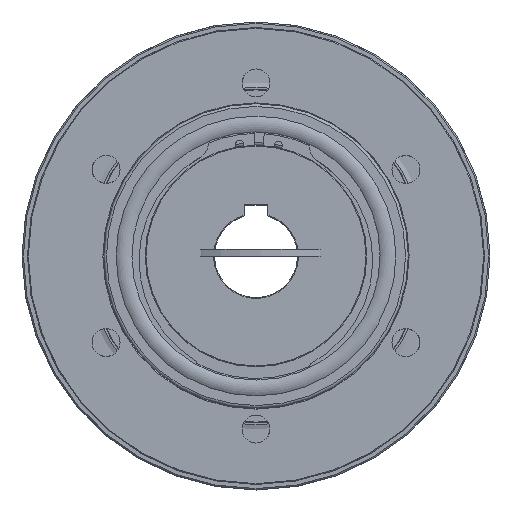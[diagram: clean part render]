
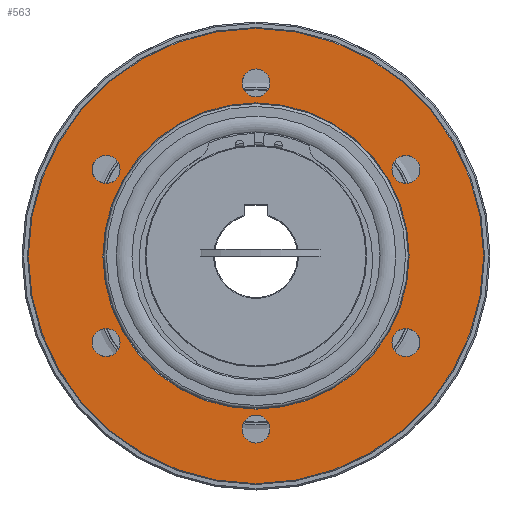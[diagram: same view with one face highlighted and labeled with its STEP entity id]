
A CAD part, left-side view. The second image highlights one B-rep face of the part: STEP entity #563.
In plain terms, the highlighted planar face has unit normal (-1, 0, 0).
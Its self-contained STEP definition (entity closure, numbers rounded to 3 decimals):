
#563 = ADVANCED_FACE( '', ( #919, #920, #921, #922, #923, #924, #925, #926 ), #927, .F. );
#919 = FACE_OUTER_BOUND( '', #1232, .T. );
#920 = FACE_BOUND( '', #1233, .T. );
#921 = FACE_BOUND( '', #1234, .T. );
#922 = FACE_BOUND( '', #1235, .T. );
#923 = FACE_BOUND( '', #1236, .T. );
#924 = FACE_BOUND( '', #1237, .T. );
#925 = FACE_BOUND( '', #1238, .T. );
#926 = FACE_BOUND( '', #1239, .T. );
#927 = PLANE( '', #1240 );
#1232 = EDGE_LOOP( '', ( #1745 ) );
#1233 = EDGE_LOOP( '', ( #1746 ) );
#1234 = EDGE_LOOP( '', ( #1747 ) );
#1235 = EDGE_LOOP( '', ( #1748 ) );
#1236 = EDGE_LOOP( '', ( #1749 ) );
#1237 = EDGE_LOOP( '', ( #1750 ) );
#1238 = EDGE_LOOP( '', ( #1751 ) );
#1239 = EDGE_LOOP( '', ( #1752 ) );
#1240 = AXIS2_PLACEMENT_3D( '', #1753, #1754, #1755 );
#1745 = ORIENTED_EDGE( '', *, *, #2472, .T. );
#1746 = ORIENTED_EDGE( '', *, *, #2471, .T. );
#1747 = ORIENTED_EDGE( '', *, *, #2475, .T. );
#1748 = ORIENTED_EDGE( '', *, *, #2476, .T. );
#1749 = ORIENTED_EDGE( '', *, *, #2477, .T. );
#1750 = ORIENTED_EDGE( '', *, *, #2478, .T. );
#1751 = ORIENTED_EDGE( '', *, *, #2479, .T. );
#1752 = ORIENTED_EDGE( '', *, *, #2480, .T. );
#1753 = CARTESIAN_POINT( '', ( -30.5, 82.5, 0. ) );
#1754 = DIRECTION( '', ( 1., 0., 0. ) );
#1755 = DIRECTION( '', ( 0., 1., 0. ) );
#2471 = EDGE_CURVE( '', #2731, #2731, #2732, .T. );
#2472 = EDGE_CURVE( '', #2733, #2733, #2734, .T. );
#2475 = EDGE_CURVE( '', #2739, #2739, #2740, .T. );
#2476 = EDGE_CURVE( '', #2741, #2741, #2742, .T. );
#2477 = EDGE_CURVE( '', #2743, #2743, #2744, .T. );
#2478 = EDGE_CURVE( '', #2745, #2745, #2746, .T. );
#2479 = EDGE_CURVE( '', #2747, #2747, #2748, .T. );
#2480 = EDGE_CURVE( '', #2749, #2749, #2750, .T. );
#2731 = VERTEX_POINT( '', #2995 );
#2732 = CIRCLE( '', #2996, 55.3 );
#2733 = VERTEX_POINT( '', #2997 );
#2734 = CIRCLE( '', #2998, 82.2 );
#2739 = VERTEX_POINT( '', #3003 );
#2740 = CIRCLE( '', #3004, 5.053 );
#2741 = VERTEX_POINT( '', #3005 );
#2742 = CIRCLE( '', #3006, 5.053 );
#2743 = VERTEX_POINT( '', #3007 );
#2744 = CIRCLE( '', #3008, 5.053 );
#2745 = VERTEX_POINT( '', #3009 );
#2746 = CIRCLE( '', #3010, 5.053 );
#2747 = VERTEX_POINT( '', #3011 );
#2748 = CIRCLE( '', #3012, 5.053 );
#2749 = VERTEX_POINT( '', #3013 );
#2750 = CIRCLE( '', #3014, 5.053 );
#2995 = CARTESIAN_POINT( '', ( -30.5, 0., -55.3 ) );
#2996 = AXIS2_PLACEMENT_3D( '', #3305, #3306, #3307 );
#2997 = CARTESIAN_POINT( '', ( -30.5, 0., -82.2 ) );
#2998 = AXIS2_PLACEMENT_3D( '', #3308, #3309, #3310 );
#3003 = CARTESIAN_POINT( '', ( -30.5, 58.503, 33.777 ) );
#3004 = AXIS2_PLACEMENT_3D( '', #3317, #3318, #3319 );
#3005 = CARTESIAN_POINT( '', ( -30.5, 58.503, -33.777 ) );
#3006 = AXIS2_PLACEMENT_3D( '', #3320, #3321, #3322 );
#3007 = CARTESIAN_POINT( '', ( -30.5, 0., -67.553 ) );
#3008 = AXIS2_PLACEMENT_3D( '', #3323, #3324, #3325 );
#3009 = CARTESIAN_POINT( '', ( -30.5, -58.503, -33.777 ) );
#3010 = AXIS2_PLACEMENT_3D( '', #3326, #3327, #3328 );
#3011 = CARTESIAN_POINT( '', ( -30.5, -58.503, 33.777 ) );
#3012 = AXIS2_PLACEMENT_3D( '', #3329, #3330, #3331 );
#3013 = CARTESIAN_POINT( '', ( -30.5, 0., 67.553 ) );
#3014 = AXIS2_PLACEMENT_3D( '', #3332, #3333, #3334 );
#3305 = CARTESIAN_POINT( '', ( -30.5, 0., 0. ) );
#3306 = DIRECTION( '', ( 1., 0., 0. ) );
#3307 = DIRECTION( '', ( 0., 0., -1. ) );
#3308 = CARTESIAN_POINT( '', ( -30.5, 0., 0. ) );
#3309 = DIRECTION( '', ( -1., 0., 0. ) );
#3310 = DIRECTION( '', ( 0., 0., -1. ) );
#3317 = CARTESIAN_POINT( '', ( -30.5, 54.127, 31.25 ) );
#3318 = DIRECTION( '', ( 1., 0., 0. ) );
#3319 = DIRECTION( '', ( 0., 0.866, 0.5 ) );
#3320 = CARTESIAN_POINT( '', ( -30.5, 54.127, -31.25 ) );
#3321 = DIRECTION( '', ( 1., 0., 0. ) );
#3322 = DIRECTION( '', ( 0., 0.866, -0.5 ) );
#3323 = CARTESIAN_POINT( '', ( -30.5, 0., -62.5 ) );
#3324 = DIRECTION( '', ( 1., 0., 0. ) );
#3325 = DIRECTION( '', ( 0., 0., -1. ) );
#3326 = CARTESIAN_POINT( '', ( -30.5, -54.127, -31.25 ) );
#3327 = DIRECTION( '', ( 1., 0., 0. ) );
#3328 = DIRECTION( '', ( 0., -0.866, -0.5 ) );
#3329 = CARTESIAN_POINT( '', ( -30.5, -54.127, 31.25 ) );
#3330 = DIRECTION( '', ( 1., 0., 0. ) );
#3331 = DIRECTION( '', ( 0., -0.866, 0.5 ) );
#3332 = CARTESIAN_POINT( '', ( -30.5, 0., 62.5 ) );
#3333 = DIRECTION( '', ( 1., 0., 0. ) );
#3334 = DIRECTION( '', ( 0., 0., 1. ) );
